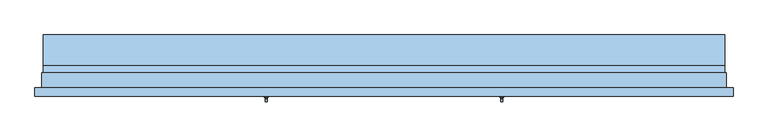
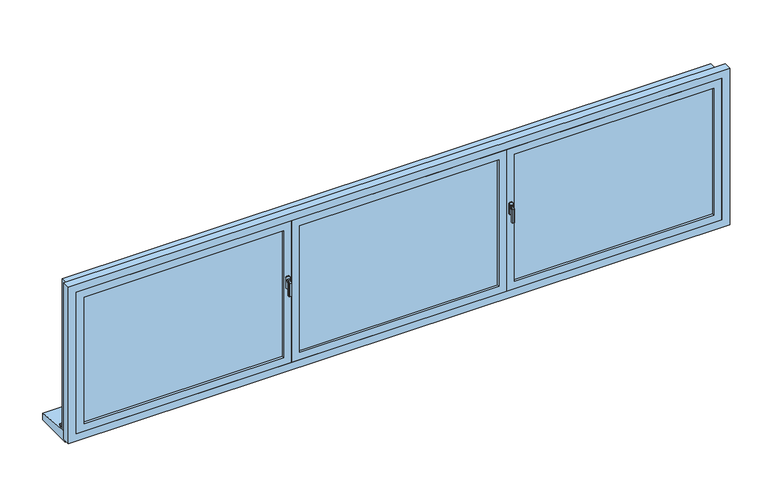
"""IFC4 building model written with IfcOpenShell, lengths in millimetres: window geometry, 3 Vantaux - Droits : Menuiserie 8."""

from ifc_helpers import new_model, si_unit, frame, origin, place, context, project, spatial, polyline, outline, extrude, faceted_brep, source, transform, mapped, element, save


def window_9b9de55e(model_context):
    return source(origin(), model_context, "Body", "SolidModel", [
        faceted_brep([(-702.6873237, -183.0, 1422.0339292), (-701.2994041, -183.0, 1420.6460097), (-701.2994041, -183.0, 1409.3323012), (-702.6656345, -183.0, 1407.9660708), (-714.0010322, -183.0, 1407.9660708), (-715.3672626, -183.0, 1409.3323012), (-715.3672626, -183.0, 1420.6460097), (-713.979343, -183.0, 1422.0339292), (-702.6873237, -195.9135489, 1422.0339292), (-701.2994041, -195.3386538, 1420.6460097), (-701.2994041, -208.6460097, 1407.3386538), (-701.2994041, -208.6460097, 1320.0), (-701.2994041, -197.3323012, 1320.0), (-701.2994041, -197.3323012, 1402.6523623), (-701.2994041, -190.6523623, 1409.3323012), (-702.6656345, -190.0864511, 1407.9660708), (-714.0010322, -190.0864511, 1407.9660708), (-715.3672626, -190.6523623, 1409.3323012), (-715.3672626, -197.3323012, 1402.6523623), (-715.3672626, -197.3323012, 1320.0), (-715.3672626, -208.6460097, 1320.0), (-715.3672626, -208.6460097, 1407.3386538), (-715.3672626, -195.3386538, 1420.6460097), (-713.979343, -195.9135489, 1422.0339292), (-702.6873237, -210.0339292, 1407.9135489), (-702.6656345, -195.9660708, 1402.0864511), (-714.0010322, -195.9660708, 1402.0864511), (-713.979343, -210.0339292, 1407.9135489), (-702.6873237, -210.0339292, 1320.0), (-713.979343, -210.0339292, 1320.0), (-714.0010322, -195.9660708, 1320.0), (-702.6656345, -195.9660708, 1320.0)], [[[0, 1, 2, 3, 4, 5, 6, 7]], [[1, 0, 8, 9]], [[2, 1, 9, 10, 11, 12, 13, 14]], [[3, 2, 14, 15]], [[4, 3, 15, 16]], [[5, 4, 16, 17]], [[6, 5, 17, 18, 19, 20, 21, 22]], [[7, 6, 22, 23]], [[0, 7, 23, 8]], [[9, 8, 24, 10]], [[15, 14, 13, 25]], [[16, 15, 25, 26]], [[17, 16, 26, 18]], [[23, 22, 21, 27]], [[8, 23, 27, 24]], [[28, 29, 20, 19, 30, 31, 12, 11]], [[10, 24, 28, 11]], [[25, 13, 12, 31]], [[26, 25, 31, 30]], [[18, 26, 30, 19]], [[27, 21, 20, 29]], [[24, 27, 29, 28]]]),
        extrude(outline(polyline([(1440.0, -701.3333333), (1440.0, -715.3333333), (1435.0, -720.3333333), (1365.0, -720.3333333), (1360.0, -715.3333333), (1360.0, -701.3333333), (1365.0, -696.3333333), (1435.0, -696.3333333), (1440.0, -701.3333333)])), frame((0.0, -183.0, 0.0), z_axis=(0.0, 1.0, 0.0), x_axis=(0.0, 0.0, 1.0)), (0.0, 0.0, 1.0), 6.0),
        faceted_brep([(713.979343, -183.0, 1422.0339292), (715.3672626, -183.0, 1420.6460097), (715.3672626, -183.0, 1409.3323012), (714.0010322, -183.0, 1407.9660708), (702.6656345, -183.0, 1407.9660708), (701.2994041, -183.0, 1409.3323012), (701.2994041, -183.0, 1420.6460097), (702.6873237, -183.0, 1422.0339292), (713.979343, -195.9135489, 1422.0339292), (715.3672626, -195.3386538, 1420.6460097), (715.3672626, -208.6460097, 1407.3386538), (715.3672626, -208.6460097, 1320.0), (715.3672626, -197.3323012, 1320.0), (715.3672626, -197.3323012, 1402.6523623), (715.3672626, -190.6523623, 1409.3323012), (714.0010322, -190.0864511, 1407.9660708), (702.6656345, -190.0864511, 1407.9660708), (701.2994041, -190.6523623, 1409.3323012), (701.2994041, -197.3323012, 1402.6523623), (701.2994041, -197.3323012, 1320.0), (701.2994041, -208.6460097, 1320.0), (701.2994041, -208.6460097, 1407.3386538), (701.2994041, -195.3386538, 1420.6460097), (702.6873237, -195.9135489, 1422.0339292), (713.979343, -210.0339292, 1407.9135489), (714.0010322, -195.9660708, 1402.0864511), (702.6656345, -195.9660708, 1402.0864511), (702.6873237, -210.0339292, 1407.9135489), (713.979343, -210.0339292, 1320.0), (702.6873237, -210.0339292, 1320.0), (702.6656345, -195.9660708, 1320.0), (714.0010322, -195.9660708, 1320.0)], [[[0, 1, 2, 3, 4, 5, 6, 7]], [[1, 0, 8, 9]], [[2, 1, 9, 10, 11, 12, 13, 14]], [[3, 2, 14, 15]], [[4, 3, 15, 16]], [[5, 4, 16, 17]], [[6, 5, 17, 18, 19, 20, 21, 22]], [[7, 6, 22, 23]], [[0, 7, 23, 8]], [[9, 8, 24, 10]], [[15, 14, 13, 25]], [[16, 15, 25, 26]], [[17, 16, 26, 18]], [[23, 22, 21, 27]], [[8, 23, 27, 24]], [[28, 29, 20, 19, 30, 31, 12, 11]], [[10, 24, 28, 11]], [[25, 13, 12, 31]], [[26, 25, 31, 30]], [[18, 26, 30, 19]], [[27, 21, 20, 29]], [[24, 27, 29, 28]]]),
        extrude(outline(polyline([(1440.0, 715.3333333), (1440.0, 701.3333333), (1435.0, 696.3333333), (1365.0, 696.3333333), (1360.0, 701.3333333), (1360.0, 715.3333333), (1365.0, 720.3333333), (1435.0, 720.3333333), (1440.0, 715.3333333)])), frame((0.0, -183.0, 0.0), z_axis=(0.0, 1.0, 0.0), x_axis=(0.0, 0.0, 1.0)), (0.0, 0.0, 1.0), 6.0),
        extrude(outline(polyline([(-57.0, 800.0), (-7.0, 800.0), (-7.0, 785.0), (192.0, 764.0842572), (192.0, 720.0), (-57.0, 720.0), (-57.0, 800.0)])), frame((-2050.0, 0.0, 0.0), z_axis=(1.0, 0.0, 0.0), x_axis=(0.0, 1.0, 0.0)), (0.0, 0.0, 1.0), 4100.0),
        extrude(outline(polyline([(850.0, 683.3333333), (1800.0, 683.3333333), (1800.0, -683.3333333), (850.0, -683.3333333), (850.0, 683.3333333)]), holes=[polyline([(900.0, -633.3333333), (1750.0, -633.3333333), (1750.0, 633.3333333), (900.0, 633.3333333), (900.0, -633.3333333)])]), frame((0.0, -177.0, 0.0), z_axis=(0.0, 1.0, 0.0), x_axis=(0.0, 0.0, 1.0)), (0.0, 0.0, 1.0), 40.0),
        extrude(outline(polyline([(850.0, -683.3333333), (1800.0, -683.3333333), (1800.0, -2050.0), (850.0, -2050.0), (850.0, -683.3333333)]), holes=[polyline([(900.0, -2000.0), (1750.0, -2000.0), (1750.0, -733.3333333), (900.0, -733.3333333), (900.0, -2000.0)])]), frame((0.0, -177.0, 0.0), z_axis=(0.0, 1.0, 0.0), x_axis=(0.0, 0.0, 1.0)), (0.0, 0.0, 1.0), 40.0),
        extrude(outline(polyline([(733.3333333, -151.0), (2000.0, -151.0), (2000.0, -163.0), (733.3333333, -163.0), (733.3333333, -151.0)])), frame((0.0, 0.0, 900.0), z_axis=(0.0, 0.0, 1.0), x_axis=(1.0, 0.0, 0.0)), (0.0, 0.0, 1.0), 850.0),
        extrude(outline(polyline([(-2000.0, -151.0), (-733.3333333, -151.0), (-733.3333333, -163.0), (-2000.0, -163.0), (-2000.0, -151.0)])), frame((0.0, 0.0, 900.0), z_axis=(0.0, 0.0, 1.0), x_axis=(1.0, 0.0, 0.0)), (0.0, 0.0, 1.0), 850.0),
        extrude(outline(polyline([(-633.3333333, -151.0), (633.3333333, -151.0), (633.3333333, -163.0), (-633.3333333, -163.0), (-633.3333333, -151.0)])), frame((0.0, 0.0, 900.0), z_axis=(0.0, 0.0, 1.0), x_axis=(1.0, 0.0, 0.0)), (0.0, 0.0, 1.0), 850.0),
        extrude(outline(polyline([(850.0, 2050.0), (1800.0, 2050.0), (1800.0, 683.3333333), (850.0, 683.3333333), (850.0, 2050.0)]), holes=[polyline([(900.0, 733.3333333), (1750.0, 733.3333333), (1750.0, 2000.0), (900.0, 2000.0), (900.0, 733.3333333)])]), frame((0.0, -177.0, 0.0), z_axis=(0.0, 1.0, 0.0), x_axis=(0.0, 0.0, 1.0)), (0.0, 0.0, 1.0), 40.0),
        faceted_brep([(-2100.0, -177.0, 800.0), (-2100.0, -127.0, 800.0), (-2050.0, -127.0, 800.0), (-2050.0, -2.0, 800.0), (2050.0, -2.0, 800.0), (2050.0, -127.0, 800.0), (2100.0, -127.0, 800.0), (2100.0, -177.0, 800.0), (-2100.0, -177.0, 1850.0), (-2100.0, -127.0, 1850.0), (2100.0, -127.0, 1850.0), (2050.0, -127.0, 839.3761425), (-2050.0, -127.0, 839.3761425), (-2035.0, -127.0, 1785.0), (-2035.0, -127.0, 865.0), (2035.0, -127.0, 865.0), (2035.0, -127.0, 1785.0), (-2050.0, 8.0, 803.2030015), (-2050.0, 8.0, 795.0), (-2050.0, -2.0, 795.0), (2050.0, -2.0, 795.0), (2050.0, 8.0, 795.0), (2050.0, 8.0, 803.2030015), (2100.0, -177.0, 1850.0), (2050.0, -177.0, 1800.0), (2050.0, -177.0, 850.0), (-2050.0, -177.0, 850.0), (-2050.0, -177.0, 1800.0), (-2035.0, -137.0, 1785.0), (-2035.0, -137.0, 865.0), (2035.0, -137.0, 865.0), (2035.0, -137.0, 1785.0), (2050.0, -137.0, 1800.0), (-2050.0, -137.0, 1800.0), (-2050.0, -137.0, 850.0), (2050.0, -137.0, 850.0)], [[[0, 1, 2, 3, 4, 5, 6, 7]], [[1, 0, 8, 9]], [[1, 9, 10, 6, 5, 11, 12, 2], [13, 14, 15, 16]], [[12, 17, 18, 19, 3, 2]], [[3, 19, 20, 4]], [[4, 20, 21, 22, 11, 5]], [[6, 10, 23, 7]], [[0, 7, 23, 8], [24, 25, 26, 27]], [[13, 28, 29, 14]], [[29, 30, 15, 14]], [[31, 16, 15, 30]], [[17, 12, 11, 22]], [[32, 33, 34, 35], [28, 31, 30, 29]], [[34, 33, 27, 26]], [[26, 25, 35, 34]], [[24, 32, 35, 25]], [[18, 17, 22, 21]], [[19, 18, 21, 20]], [[13, 16, 31, 28]], [[33, 32, 24, 27]], [[10, 9, 8, 23]]]),
        extrude(outline(polyline([(800.0, -2060.0), (800.0, -2050.0), (1800.0, -2050.0), (1800.0, 2050.0), (800.0, 2050.0), (800.0, 2060.0), (1810.0, 2060.0), (1810.0, -2060.0), (800.0, -2060.0)])), frame((0.0, -127.0, 0.0), z_axis=(0.0, 1.0, 0.0), x_axis=(0.0, 0.0, 1.0)), (0.0, 0.0, 1.0), 90.0),
        extrude(outline(polyline([(703.3333333, -129.0), (703.3333333, -137.0), (663.3333333, -137.0), (663.3333333, -129.0), (703.3333333, -129.0)])), frame((0.0, 0.0, 865.0), z_axis=(0.0, 0.0, 1.0), x_axis=(1.0, 0.0, 0.0)), (0.0, 0.0, 1.0), 920.0),
        extrude(outline(polyline([(-663.3333333, -129.0), (-663.3333333, -137.0), (-703.3333333, -137.0), (-703.3333333, -129.0), (-663.3333333, -129.0)])), frame((0.0, 0.0, 865.0), z_axis=(0.0, 0.0, 1.0), x_axis=(1.0, 0.0, 0.0)), (0.0, 0.0, 1.0), 920.0),
    ])


if __name__ == "__main__":
    model = new_model("IFC4")
    model_context = context("Model", 3, world=origin())
    ifc_project = project(units=[si_unit("LENGTHUNIT", "METRE", prefix="MILLI")], contexts=[model_context])
    site = spatial("IfcSite", under=ifc_project)
    building = spatial("IfcBuilding", under=site)
    placement = place(None, origin())
    window_shape = window_9b9de55e(model_context)
    element("IfcWindow", 1, ObjectType="3 Vantaux - Droits : Menuiserie 8", at=placement, inside=building, context=model_context, shape_type="MappedRepresentation", body=[
        mapped(window_shape, transform((0.0, 0.0, 0.0), x_axis=(1.0, 0.0, 0.0), y_axis=(0.0, 1.0, 0.0), z_axis=(0.0, 0.0, 1.0))),
    ])
    save(model, "model.ifc")
